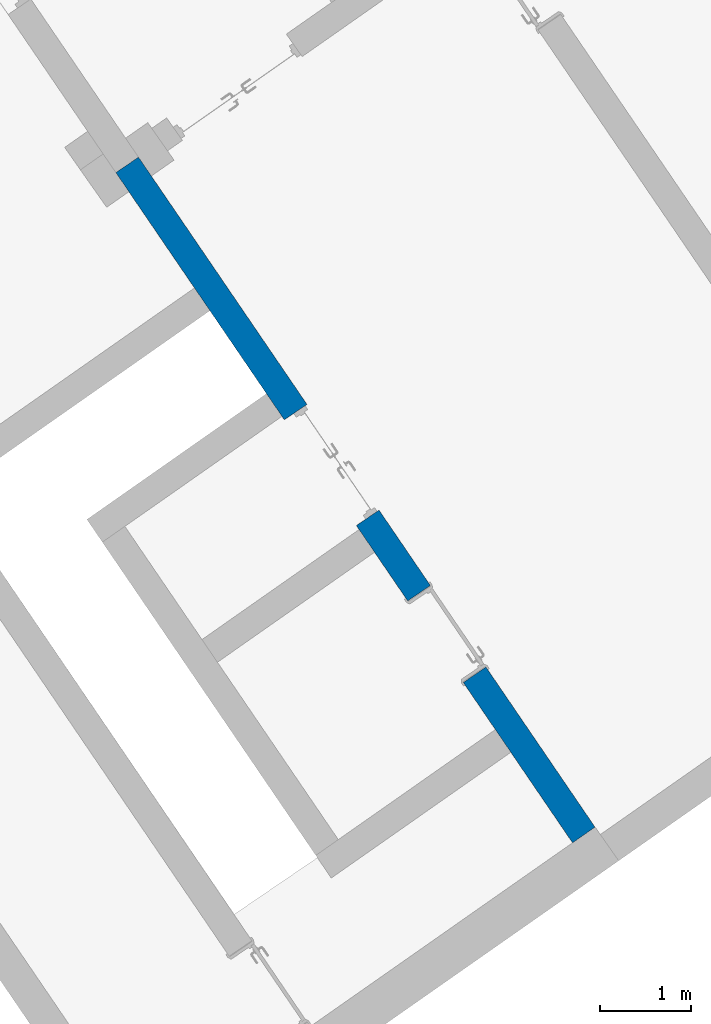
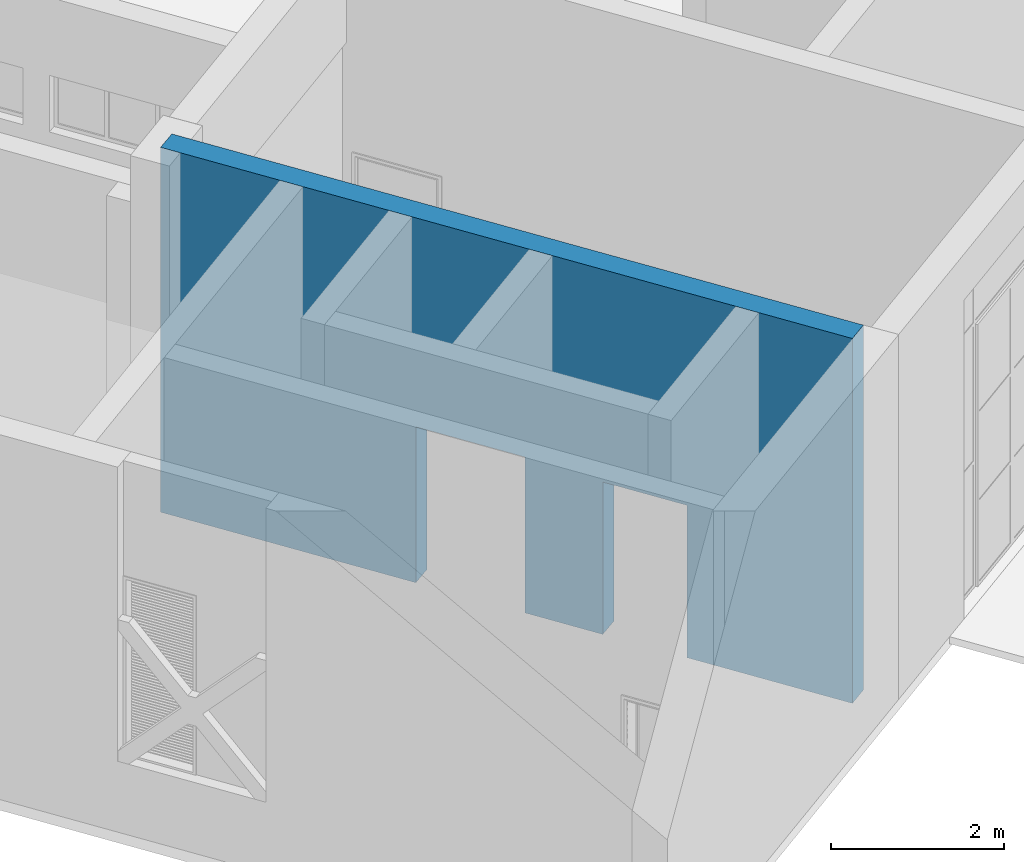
# One storey, part 61 of 157: 1 wall, 2 openings.
"""IFC2X3 building model written with IfcOpenShell, lengths in millimetres."""

from ifc_helpers import new_model, entity, si_unit, converted_unit, derived_unit, direction, frame, frame_2d, origin, place, context, subcontext, project, spatial, polyline, rectangle, outline, extrude, material, layer, layer_set, layer_usage, type_object, element, save


model = new_model("IFC2X3")

# Units and contexts
model_context = context("Model", 3, precision=0.01, world=origin(), true_north=direction((6.123031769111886e-17, 1.0)))
body_context = subcontext(model_context, "Body", "Model", "MODEL_VIEW")
ifc_project = project(units=[si_unit("LENGTHUNIT", "METRE", prefix="MILLI"), si_unit("AREAUNIT", "SQUARE_METRE"), si_unit("VOLUMEUNIT", "CUBIC_METRE"), converted_unit("PLANEANGLEUNIT", "DEGREE", entity("IfcRatioMeasure", 0.017453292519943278), si_unit("PLANEANGLEUNIT", "RADIAN"), dimensions=[0, 0, 0, 0, 0, 0, 0]), si_unit("MASSUNIT", "GRAM", prefix="KILO"), derived_unit("MASSDENSITYUNIT", [(si_unit("MASSUNIT", "GRAM", prefix="KILO"), 1), (si_unit("LENGTHUNIT", "METRE"), -3)]), derived_unit("MOMENTOFINERTIAUNIT", [(si_unit("LENGTHUNIT", "METRE"), 4)]), si_unit("TIMEUNIT", "SECOND"), si_unit("FREQUENCYUNIT", "HERTZ"), si_unit("THERMODYNAMICTEMPERATUREUNIT", "DEGREE_CELSIUS"), derived_unit("THERMALTRANSMITTANCEUNIT", [(si_unit("MASSUNIT", "GRAM", prefix="KILO"), 1), (si_unit("THERMODYNAMICTEMPERATUREUNIT", "KELVIN"), -1), (si_unit("TIMEUNIT", "SECOND"), -3)]), derived_unit("THERMALCONDUCTANCEUNIT", [(si_unit("MASSUNIT", "GRAM", prefix="KILO"), 1), (si_unit("LENGTHUNIT", "METRE"), 1), (si_unit("THERMODYNAMICTEMPERATUREUNIT", "KELVIN"), -1), (si_unit("TIMEUNIT", "SECOND"), -3)]), derived_unit("VOLUMETRICFLOWRATEUNIT", [(si_unit("LENGTHUNIT", "METRE"), 3), (si_unit("TIMEUNIT", "SECOND"), -1)]), derived_unit("MASSFLOWRATEUNIT", [(si_unit("MASSUNIT", "GRAM", prefix="KILO"), 1), (si_unit("TIMEUNIT", "SECOND"), -1)]), derived_unit("ROTATIONALFREQUENCYUNIT", [(si_unit("TIMEUNIT", "SECOND"), -1)]), si_unit("ELECTRICCURRENTUNIT", "AMPERE"), si_unit("ELECTRICVOLTAGEUNIT", "VOLT"), si_unit("POWERUNIT", "WATT"), converted_unit("FORCEUNIT", "KIP", entity("IfcRatioMeasure", 2.088543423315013e-05), si_unit("FORCEUNIT", "NEWTON"), dimensions=[1, 1, -2, 0, 0, 0, 0]), si_unit("ILLUMINANCEUNIT", "LUX"), si_unit("LUMINOUSFLUXUNIT", "LUMEN"), si_unit("LUMINOUSINTENSITYUNIT", "CANDELA"), derived_unit("USERDEFINED", [(si_unit("MASSUNIT", "GRAM", prefix="KILO"), -1), (si_unit("LENGTHUNIT", "METRE"), -2), (si_unit("TIMEUNIT", "SECOND"), 3), (si_unit("LUMINOUSFLUXUNIT", "LUMEN"), 1)]), derived_unit("USERDEFINED", [(si_unit("MASSUNIT", "GRAM", prefix="KILO"), 1), (si_unit("LENGTHUNIT", "METRE"), 3), (si_unit("TIMEUNIT", "SECOND"), -3), (si_unit("ELECTRICCURRENTUNIT", "AMPERE"), -2)]), derived_unit("USERDEFINED", [(si_unit("LENGTHUNIT", "METRE"), 2), (si_unit("TIMEUNIT", "SECOND"), -2)]), derived_unit("SOUNDPOWERUNIT", [(si_unit("MASSUNIT", "GRAM", prefix="KILO"), 1), (si_unit("LENGTHUNIT", "METRE"), 2), (si_unit("TIMEUNIT", "SECOND"), -3)]), derived_unit("SOUNDPRESSUREUNIT", [(si_unit("MASSUNIT", "GRAM", prefix="KILO"), 1), (si_unit("LENGTHUNIT", "METRE"), -1), (si_unit("TIMEUNIT", "SECOND"), -2)]), derived_unit("LINEARVELOCITYUNIT", [(si_unit("LENGTHUNIT", "METRE"), 1), (si_unit("TIMEUNIT", "SECOND"), -1)]), si_unit("PRESSUREUNIT", "PASCAL"), derived_unit("USERDEFINED", [(si_unit("LENGTHUNIT", "METRE"), -2), (si_unit("MASSUNIT", "GRAM", prefix="KILO"), 1), (si_unit("TIMEUNIT", "SECOND"), -2)]), derived_unit("LINEARFORCEUNIT", [(si_unit("MASSUNIT", "GRAM", prefix="KILO"), 1), (si_unit("LENGTHUNIT", "METRE"), 1), (si_unit("TIMEUNIT", "SECOND"), -2), (si_unit("LENGTHUNIT", "METRE"), -1)]), derived_unit("PLANARFORCEUNIT", [(si_unit("MASSUNIT", "GRAM", prefix="KILO"), 1), (si_unit("LENGTHUNIT", "METRE"), 1), (si_unit("TIMEUNIT", "SECOND"), -2), (si_unit("LENGTHUNIT", "METRE"), -2)]), derived_unit("SPECIFICHEATCAPACITYUNIT", [(si_unit("LENGTHUNIT", "METRE"), 2), (si_unit("TIMEUNIT", "SECOND"), -2), (si_unit("THERMODYNAMICTEMPERATUREUNIT", "KELVIN"), -1)]), derived_unit("VAPORPERMEABILITYUNIT", [(si_unit("TIMEUNIT", "SECOND"), 1), (si_unit("LENGTHUNIT", "METRE"), -1)]), derived_unit("DYNAMICVISCOSITYUNIT", [(si_unit("MASSUNIT", "GRAM", prefix="KILO"), 1), (si_unit("LENGTHUNIT", "METRE"), -1), (si_unit("TIMEUNIT", "SECOND"), -1)]), derived_unit("THERMALEXPANSIONCOEFFICIENTUNIT", [(si_unit("THERMODYNAMICTEMPERATUREUNIT", "KELVIN"), -1)])], contexts=[model_context])

# Site, building, storey
site_placement = place(None, frame((0.0, 0.0, 0.0), z_axis=(0.0, 0.0, 1.0), x_axis=(0.8191520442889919, 0.5735764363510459, 0.0)))
site = spatial("IfcSite", under=ifc_project, at=site_placement, Name="Default", CompositionType="ELEMENT")
building_placement = place(site_placement, origin())
building = spatial("IfcBuilding", under=site, at=building_placement, CompositionType="ELEMENT")
storey_placement = place(building_placement, origin())
storey = spatial("IfcBuildingStorey", under=building, at=storey_placement, Name="1.EG +0.00", CompositionType="ELEMENT", Elevation=-4.331468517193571e-12)

# Wall, openings
ifc_material = material(Name="Analytical Wall Surface_CJC")
ifc_layer = layer(ifc_material, 300.0)
ifc_layer_set = layer_set([ifc_layer], Name="Basic Wall:Wand_Innen_30")
ifc_layer_usage = layer_usage(ifc_layer_set, "AXIS2", "NEGATIVE", 150.0)
wall_type = type_object("IfcWallType", Name="Basic Wall:Wand_Innen_30", PredefinedType="STANDARD", material=ifc_layer_set)
wall_placement = place(storey_placement, frame((-217727.0674798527, 52519.44845928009, 0.0), z_axis=(0.0, 0.0, 1.0), x_axis=(0.012736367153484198, 0.9999188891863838, 0.0)))
wall = element("IfcWallStandardCase", 1, at=wall_placement, inside=storey, type_object=wall_type, material=ifc_layer_usage, Name="Basic Wall:Wand_Innen_30", ObjectType="Basic Wall:Wand_Innen_30", context=body_context, shape_type="SweptSolid", body=[
    extrude(outline(polyline([(3.821220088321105, -150.0), (8630.498971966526, -150.0), (8880.0, -150.0), (8880.0, 150.0), (8626.677751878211, 150.0), (7350.596212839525, 150.0), (7050.571877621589, 150.0), (5950.482648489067, 150.0), (5650.458313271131, 150.0), (4150.336637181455, 150.0), (3850.3123019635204, 150.0), (1500.1216760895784, 150.0), (1200.0973408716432, 150.0), (0.0, 150.0), (3.821220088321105, -150.0)])), origin(), (0.0, 0.0, 1.0), 5150.000000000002),
])
opening_1_placement = place(wall_placement, frame((3204.785805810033, 150.0, 0.0)))
element("IfcOpeningElement", 2, at=opening_1_placement, cuts=wall, Name="Doors_IntSgl:100x210:1", ObjectType="Opening", context=body_context, shape_type="SweptSolid", body=[
    extrude(rectangle(XDim=2150.000000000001, YDim=1079.9999999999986, at=frame_2d((1075.0000000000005, 540.0000000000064), x_axis=(1.0, 0.0))), frame((0.0, 0.0, 0.0), z_axis=(0.0, -1.0, 0.0), x_axis=(0.0, 0.0, 1.0)), (0.0, 0.0, 1.0), 300.0),
])
opening_2_placement = place(wall_placement, frame((5603.8358058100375, 150.0, 0.0)))
element("IfcOpeningElement", 3, at=opening_2_placement, cuts=wall, Name="M_Door-Passage-Double-Flush:130x210:1", ObjectType="Opening", context=body_context, shape_type="SweptSolid", body=[
    extrude(rectangle(XDim=2200.0, YDim=1399.999999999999, at=frame_2d((1100.0, 699.9999999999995), x_axis=(1.0, 0.0))), frame((0.0, 0.0, 0.0), z_axis=(0.0, -1.0, 0.0), x_axis=(0.0, 0.0, 1.0)), (0.0, 0.0, 1.0), 300.0),
])

save(model, "model.ifc")
